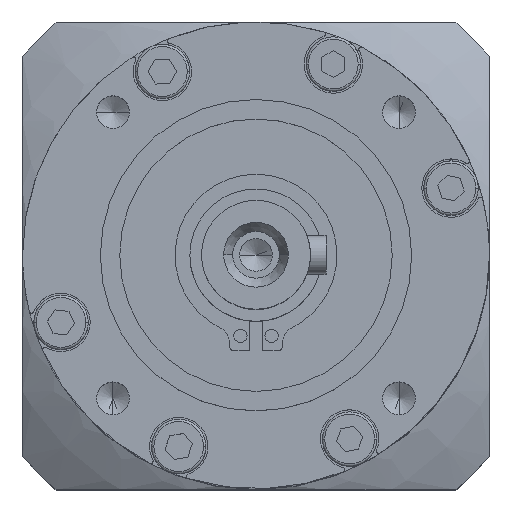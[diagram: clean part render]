
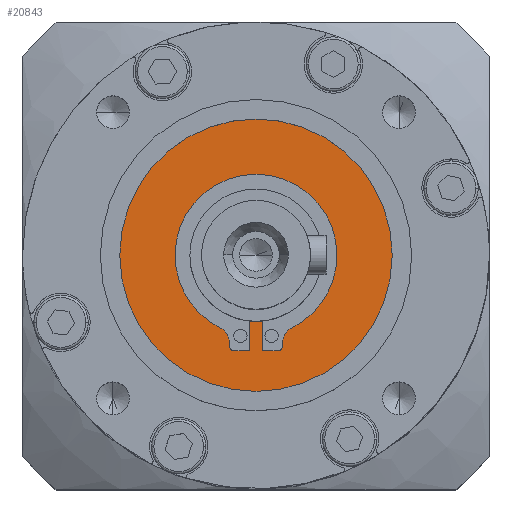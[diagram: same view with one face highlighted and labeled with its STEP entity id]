
A CAD part, top view. The second image highlights one B-rep face of the part: STEP entity #20843.
In plain terms, the highlighted planar face has unit normal (0, 0, 1).
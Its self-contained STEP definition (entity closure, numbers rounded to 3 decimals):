
#26 = ORIENTED_EDGE ( 'NONE', *, *, #43385, .F. ) ;
#715 = EDGE_CURVE ( 'NONE', #2888, #11498, #35465, .T. ) ;
#1318 = VERTEX_POINT ( 'NONE', #1703 ) ;
#1703 = CARTESIAN_POINT ( 'NONE',  ( 17.5, 0., -1. ) ) ;
#1753 = ORIENTED_EDGE ( 'NONE', *, *, #37342, .T. ) ;
#1765 = CIRCLE ( 'NONE', #45003, 10.4 ) ;
#2211 = DIRECTION ( 'NONE',  ( 0., 0., 1. ) ) ;
#2218 = CARTESIAN_POINT ( 'NONE',  ( -3.35, 0., -1. ) ) ;
#2224 = LINE ( 'NONE', #2218, #10778 ) ;
#2275 = CARTESIAN_POINT ( 'NONE',  ( 0., 0., -1. ) ) ;
#2376 = CARTESIAN_POINT ( 'NONE',  ( -3.35, -11.497, -1. ) ) ;
#2450 = LINE ( 'NONE', #24317, #30499 ) ;
#2751 = CARTESIAN_POINT ( 'NONE',  ( 0., 0., -1. ) ) ;
#2888 = VERTEX_POINT ( 'NONE', #19393 ) ;
#3034 = ORIENTED_EDGE ( 'NONE', *, *, #39742, .F. ) ;
#3048 = VECTOR ( 'NONE', #11003, 1000. ) ;
#3269 = EDGE_CURVE ( 'NONE', #11498, #44524, #35923, .T. ) ;
#3362 = VERTEX_POINT ( 'NONE', #5769 ) ;
#3432 = ORIENTED_EDGE ( 'NONE', *, *, #45562, .T. ) ;
#3913 = FACE_OUTER_BOUND ( 'NONE', #18667, .T. ) ;
#3955 = VERTEX_POINT ( 'NONE', #42102 ) ;
#4289 = CIRCLE ( 'NONE', #47034, 0.5 ) ;
#4941 = CARTESIAN_POINT ( 'NONE',  ( -0.85, -8.457, -1. ) ) ;
#5384 = ORIENTED_EDGE ( 'NONE', *, *, #3269, .F. ) ;
#5543 = LINE ( 'NONE', #32964, #43298 ) ;
#5709 = PLANE ( 'NONE',  #20268 ) ;
#5769 = CARTESIAN_POINT ( 'NONE',  ( -3.35, -11.757, -1. ) ) ;
#5860 = VERTEX_POINT ( 'NONE', #25426 ) ;
#5874 = DIRECTION ( 'NONE',  ( -1., 0., 0. ) ) ;
#5909 = DIRECTION ( 'NONE',  ( -1., 0., 0. ) ) ;
#5925 = ORIENTED_EDGE ( 'NONE', *, *, #29186, .F. ) ;
#6376 = DIRECTION ( 'NONE',  ( 1., 0., 0. ) ) ;
#6761 = AXIS2_PLACEMENT_3D ( 'NONE', #2751, #28373, #6376 ) ;
#7213 = VERTEX_POINT ( 'NONE', #33022 ) ;
#7317 = DIRECTION ( 'NONE',  ( 0., -1., 0. ) ) ;
#7928 = DIRECTION ( 'NONE',  ( -1., 0., 0. ) ) ;
#7991 = DIRECTION ( 'NONE',  ( 0., 0., 1. ) ) ;
#7997 = CARTESIAN_POINT ( 'NONE',  ( 2.85, -11.757, -1. ) ) ;
#8193 = AXIS2_PLACEMENT_3D ( 'NONE', #24130, #2211, #27833 ) ;
#9422 = CARTESIAN_POINT ( 'NONE',  ( 0., 0., -1. ) ) ;
#9707 = DIRECTION ( 'NONE',  ( 0., -1., 0. ) ) ;
#9796 = ORIENTED_EDGE ( 'NONE', *, *, #715, .F. ) ;
#10778 = VECTOR ( 'NONE', #9707, 1000. ) ;
#10891 = CIRCLE ( 'NONE', #16941, 10.4 ) ;
#11003 = DIRECTION ( 'NONE',  ( 1., 0., 0. ) ) ;
#11366 = DIRECTION ( 'NONE',  ( 0., 0., -1. ) ) ;
#11431 = VERTEX_POINT ( 'NONE', #16294 ) ;
#11498 = VERTEX_POINT ( 'NONE', #16592 ) ;
#12404 = CIRCLE ( 'NONE', #25983, 2.5 ) ;
#12727 = EDGE_CURVE ( 'NONE', #5860, #11431, #32167, .T. ) ;
#13140 = CIRCLE ( 'NONE', #33660, 2.5 ) ;
#13486 = CARTESIAN_POINT ( 'NONE',  ( 0., 0., -1. ) ) ;
#13649 = FACE_BOUND ( 'NONE', #44009, .T. ) ;
#14716 = ORIENTED_EDGE ( 'NONE', *, *, #39166, .F. ) ;
#14789 = CARTESIAN_POINT ( 'NONE',  ( 0.85, -8.457, -1. ) ) ;
#15024 = ORIENTED_EDGE ( 'NONE', *, *, #35416, .F. ) ;
#15394 = CARTESIAN_POINT ( 'NONE',  ( -5.85, -11.497, -1. ) ) ;
#15507 = CARTESIAN_POINT ( 'NONE',  ( -17.5, 0., -1. ) ) ;
#15550 = CARTESIAN_POINT ( 'NONE',  ( -2.85, -11.757, -1. ) ) ;
#15553 = CIRCLE ( 'NONE', #26385, 17.5 ) ;
#16002 = DIRECTION ( 'NONE',  ( 1., 0., 0. ) ) ;
#16294 = CARTESIAN_POINT ( 'NONE',  ( -10.4, 0., -1. ) ) ;
#16397 = CARTESIAN_POINT ( 'NONE',  ( 0., -12.257, -1. ) ) ;
#16592 = CARTESIAN_POINT ( 'NONE',  ( 2.85, -12.257, -1. ) ) ;
#16928 = DIRECTION ( 'NONE',  ( 0., 1., 0. ) ) ;
#16941 = AXIS2_PLACEMENT_3D ( 'NONE', #2275, #27889, #5909 ) ;
#17159 = DIRECTION ( 'NONE',  ( -1., 0., 0. ) ) ;
#17584 = CARTESIAN_POINT ( 'NONE',  ( 0., 0., -1. ) ) ;
#17690 = EDGE_CURVE ( 'NONE', #44524, #20945, #2450, .T. ) ;
#17862 = VERTEX_POINT ( 'NONE', #14789 ) ;
#18001 = CARTESIAN_POINT ( 'NONE',  ( 0., 0., -1. ) ) ;
#18667 = EDGE_LOOP ( 'NONE', ( #1753, #3432 ) ) ;
#18847 = ORIENTED_EDGE ( 'NONE', *, *, #29533, .F. ) ;
#19092 = DIRECTION ( 'NONE',  ( -1., 0., 0. ) ) ;
#19237 = DIRECTION ( 'NONE',  ( -1., 0., 0. ) ) ;
#19393 = CARTESIAN_POINT ( 'NONE',  ( 0.85, -12.257, -1. ) ) ;
#19435 = CIRCLE ( 'NONE', #6761, 17.5 ) ;
#20268 = AXIS2_PLACEMENT_3D ( 'NONE', #9422, #27858, #5874 ) ;
#20843 = ADVANCED_FACE ( 'NONE', ( #3913, #13649 ), #5709, .F. ) ;
#20914 = DIRECTION ( 'NONE',  ( 0., 1., 0. ) ) ;
#20945 = VERTEX_POINT ( 'NONE', #39246 ) ;
#21268 = DIRECTION ( 'NONE',  ( 1., 0., 0. ) ) ;
#21304 = VERTEX_POINT ( 'NONE', #41822 ) ;
#21778 = ORIENTED_EDGE ( 'NONE', *, *, #37970, .F. ) ;
#24130 = CARTESIAN_POINT ( 'NONE',  ( 0., 0., -1. ) ) ;
#24134 = EDGE_CURVE ( 'NONE', #3362, #3955, #4289, .T. ) ;
#24317 = CARTESIAN_POINT ( 'NONE',  ( 3.35, 0., -1. ) ) ;
#24578 = VECTOR ( 'NONE', #16002, 1000. ) ;
#24987 = AXIS2_PLACEMENT_3D ( 'NONE', #13486, #39163, #17159 ) ;
#25426 = CARTESIAN_POINT ( 'NONE',  ( 10.4, 0., -1. ) ) ;
#25583 = ORIENTED_EDGE ( 'NONE', *, *, #31547, .F. ) ;
#25983 = AXIS2_PLACEMENT_3D ( 'NONE', #33310, #11366, #37045 ) ;
#26385 = AXIS2_PLACEMENT_3D ( 'NONE', #17584, #43143, #21268 ) ;
#27144 = CARTESIAN_POINT ( 'NONE',  ( -0.85, -12.257, -1. ) ) ;
#27430 = ORIENTED_EDGE ( 'NONE', *, *, #41443, .F. ) ;
#27833 = DIRECTION ( 'NONE',  ( -1., 0., 0. ) ) ;
#27858 = DIRECTION ( 'NONE',  ( 0., 0., -1. ) ) ;
#27889 = DIRECTION ( 'NONE',  ( 0., 0., 1. ) ) ;
#27968 = VERTEX_POINT ( 'NONE', #27144 ) ;
#28373 = DIRECTION ( 'NONE',  ( 0., 0., 1. ) ) ;
#28864 = VERTEX_POINT ( 'NONE', #4941 ) ;
#29186 = EDGE_CURVE ( 'NONE', #3955, #27968, #32241, .T. ) ;
#29533 = EDGE_CURVE ( 'NONE', #27968, #28864, #42476, .T. ) ;
#29922 = AXIS2_PLACEMENT_3D ( 'NONE', #7997, #7991, #7928 ) ;
#30499 = VECTOR ( 'NONE', #16928, 1000. ) ;
#31547 = EDGE_CURVE ( 'NONE', #7213, #37883, #13140, .T. ) ;
#31600 = ORIENTED_EDGE ( 'NONE', *, *, #24134, .F. ) ;
#32167 = CIRCLE ( 'NONE', #24987, 10.4 ) ;
#32212 = VERTEX_POINT ( 'NONE', #15507 ) ;
#32241 = LINE ( 'NONE', #36662, #3048 ) ;
#32783 = VECTOR ( 'NONE', #20914, 1000. ) ;
#32964 = CARTESIAN_POINT ( 'NONE',  ( 0.85, 0., -1. ) ) ;
#33022 = CARTESIAN_POINT ( 'NONE',  ( -4.716, -9.269, -1. ) ) ;
#33056 = ORIENTED_EDGE ( 'NONE', *, *, #17690, .F. ) ;
#33310 = CARTESIAN_POINT ( 'NONE',  ( 5.85, -11.497, -1. ) ) ;
#33660 = AXIS2_PLACEMENT_3D ( 'NONE', #15394, #41033, #19092 ) ;
#33891 = CARTESIAN_POINT ( 'NONE',  ( 3.35, -11.757, -1. ) ) ;
#35416 = EDGE_CURVE ( 'NONE', #17862, #2888, #5543, .T. ) ;
#35465 = LINE ( 'NONE', #16397, #24578 ) ;
#35923 = CIRCLE ( 'NONE', #29922, 0.5 ) ;
#36662 = CARTESIAN_POINT ( 'NONE',  ( 0., -12.257, -1. ) ) ;
#37045 = DIRECTION ( 'NONE',  ( -1., 0., 0. ) ) ;
#37342 = EDGE_CURVE ( 'NONE', #1318, #32212, #19435, .T. ) ;
#37484 = DIRECTION ( 'NONE',  ( -1., 0., 0. ) ) ;
#37883 = VERTEX_POINT ( 'NONE', #2376 ) ;
#37970 = EDGE_CURVE ( 'NONE', #21304, #5860, #1765, .T. ) ;
#39163 = DIRECTION ( 'NONE',  ( 0., 0., 1. ) ) ;
#39166 = EDGE_CURVE ( 'NONE', #11431, #7213, #10891, .T. ) ;
#39246 = CARTESIAN_POINT ( 'NONE',  ( 3.35, -11.497, -1. ) ) ;
#39742 = EDGE_CURVE ( 'NONE', #37883, #3362, #2224, .T. ) ;
#40570 = ORIENTED_EDGE ( 'NONE', *, *, #12727, .F. ) ;
#41033 = DIRECTION ( 'NONE',  ( 0., 0., -1. ) ) ;
#41158 = DIRECTION ( 'NONE',  ( 0., 0., 1. ) ) ;
#41443 = EDGE_CURVE ( 'NONE', #20945, #21304, #12404, .T. ) ;
#41822 = CARTESIAN_POINT ( 'NONE',  ( 4.716, -9.269, -1. ) ) ;
#42102 = CARTESIAN_POINT ( 'NONE',  ( -2.85, -12.257, -1. ) ) ;
#42476 = LINE ( 'NONE', #42937, #32783 ) ;
#42937 = CARTESIAN_POINT ( 'NONE',  ( -0.85, 0., -1. ) ) ;
#43143 = DIRECTION ( 'NONE',  ( 0., 0., 1. ) ) ;
#43298 = VECTOR ( 'NONE', #7317, 1000. ) ;
#43385 = EDGE_CURVE ( 'NONE', #28864, #17862, #45928, .T. ) ;
#43547 = DIRECTION ( 'NONE',  ( 0., 0., 1. ) ) ;
#44009 = EDGE_LOOP ( 'NONE', ( #31600, #3034, #25583, #14716, #40570, #21778, #27430, #33056, #5384, #9796, #15024, #26, #18847, #5925 ) ) ;
#44524 = VERTEX_POINT ( 'NONE', #33891 ) ;
#45003 = AXIS2_PLACEMENT_3D ( 'NONE', #18001, #43547, #37484 ) ;
#45562 = EDGE_CURVE ( 'NONE', #32212, #1318, #15553, .T. ) ;
#45928 = CIRCLE ( 'NONE', #8193, 8.5 ) ;
#47034 = AXIS2_PLACEMENT_3D ( 'NONE', #15550, #41158, #19237 ) ;
